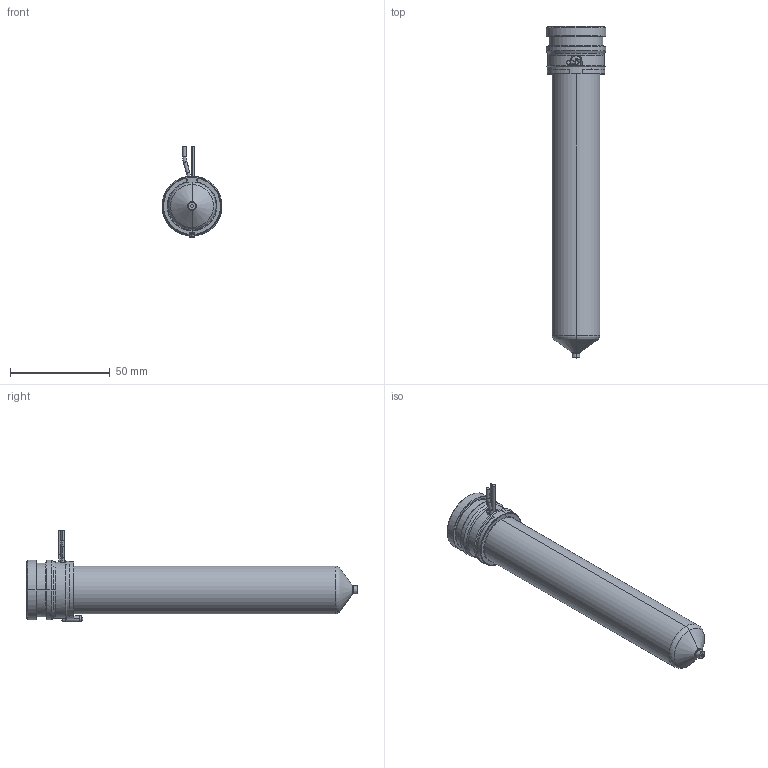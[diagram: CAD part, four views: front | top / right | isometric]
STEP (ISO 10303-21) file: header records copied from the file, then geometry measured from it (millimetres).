
FILE_DESCRIPTION((''),'2;1');
FILE_NAME('MPN-10-29-VP4-146-A','2026-02-05T12:43:08',('UPTIO'),('Thermoplay S.p.A.'),'CREO PARAMETRIC BY PTC INC, 2023494','CREO PARAMETRIC BY PTC INC, 2023494','');
FILE_SCHEMA(('CONFIG_CONTROL_DESIGN','SHAPE_APPEARANCE_LAYERS_GROUPS'));
Length unit declared in the file: millimetre
Products named in the file (1): MPN-10-29-VP4-146-A
Bounding box: 30 x 166.1 x 46 mm (x, y, z)
Volume: 51911.9 mm3; surface area: 52569.3 mm2
Topology: 2 solids, 3 shells, 580 faces, 1542 edges, 960 vertices
Faces by surface type: cylinder 180, plane 153, bspline 98, torus 70, cone 68, sphere 7, extrusion 4
Entity records: 32876 total; most frequent: CARTESIAN_POINT 15967, ORIENTED_EDGE 3072, DIRECTION 2691, EDGE_CURVE 1536, AXIS2_PLACEMENT_3D 1063, VERTEX_POINT 960, EDGE_LOOP 608, CIRCLE 584
